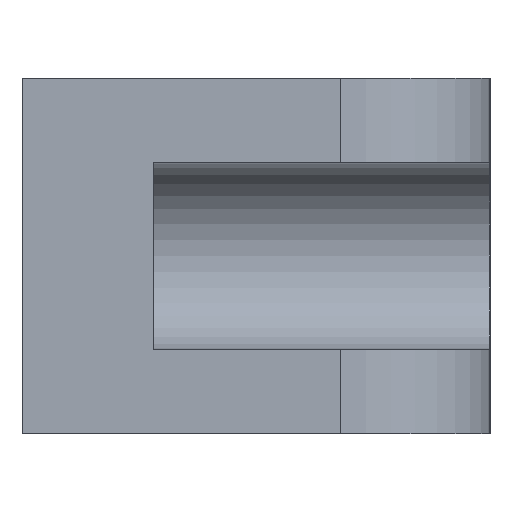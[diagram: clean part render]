
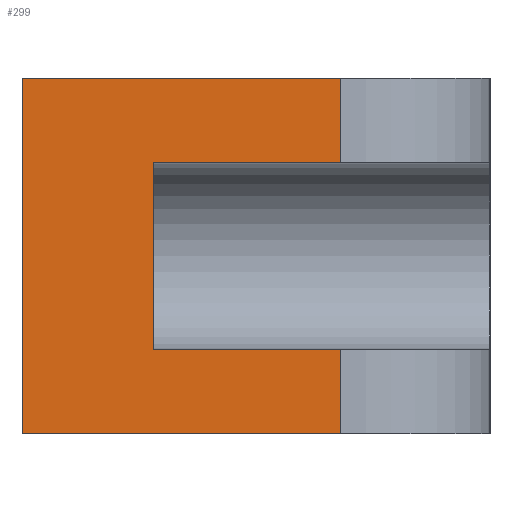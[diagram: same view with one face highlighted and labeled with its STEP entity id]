
A CAD part, left-side view. The second image highlights one B-rep face of the part: STEP entity #299.
In plain terms, the highlighted planar face has unit normal (-1, 0, 0).
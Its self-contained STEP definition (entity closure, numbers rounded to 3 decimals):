
#1 = CARTESIAN_POINT ( 'NONE',  ( 0., 18., 5. ) ) ;
#3 = EDGE_LOOP ( 'NONE', ( #680, #670, #661, #650, #617, #615, #603, #596 ) ) ;
#16 = VECTOR ( 'NONE', #699, 1000. ) ;
#18 = DIRECTION ( 'NONE',  ( 0., 0., -1. ) ) ;
#19 = EDGE_CURVE ( 'NONE', #348, #407, #98, .T. ) ;
#27 = VECTOR ( 'NONE', #68, 1000. ) ;
#29 = LINE ( 'NONE', #698, #16 ) ;
#53 = CARTESIAN_POINT ( 'NONE',  ( 0., 18., 5. ) ) ;
#68 = DIRECTION ( 'NONE',  ( 0., -1., 0. ) ) ;
#79 = VECTOR ( 'NONE', #357, 1000. ) ;
#82 = EDGE_CURVE ( 'NONE', #298, #643, #502, .T. ) ;
#84 = DIRECTION ( 'NONE',  ( 0., -1., 0. ) ) ;
#88 = CARTESIAN_POINT ( 'NONE',  ( 0., 0., -9.5 ) ) ;
#98 = LINE ( 'NONE', #486, #690 ) ;
#99 = CARTESIAN_POINT ( 'NONE',  ( 0., 18., -5. ) ) ;
#149 = VERTEX_POINT ( 'NONE', #187 ) ;
#187 = CARTESIAN_POINT ( 'NONE',  ( 0., 18., -5. ) ) ;
#193 = CARTESIAN_POINT ( 'NONE',  ( 0., 25., -9.5 ) ) ;
#216 = LINE ( 'NONE', #575, #475 ) ;
#238 = EDGE_CURVE ( 'NONE', #298, #384, #29, .T. ) ;
#287 = EDGE_CURVE ( 'NONE', #571, #410, #353, .T. ) ;
#298 = VERTEX_POINT ( 'NONE', #653 ) ;
#299 = ADVANCED_FACE ( 'NONE', ( #373 ), #641, .F. ) ;
#306 = CARTESIAN_POINT ( 'NONE',  ( 0., 25., 9.5 ) ) ;
#324 = VECTOR ( 'NONE', #84, 1000. ) ;
#330 = EDGE_CURVE ( 'NONE', #410, #384, #216, .T. ) ;
#348 = VERTEX_POINT ( 'NONE', #548 ) ;
#353 = LINE ( 'NONE', #648, #612 ) ;
#357 = DIRECTION ( 'NONE',  ( 0., 0., -1. ) ) ;
#373 = FACE_OUTER_BOUND ( 'NONE', #3, .T. ) ;
#384 = VERTEX_POINT ( 'NONE', #492 ) ;
#407 = VERTEX_POINT ( 'NONE', #436 ) ;
#410 = VERTEX_POINT ( 'NONE', #433 ) ;
#433 = CARTESIAN_POINT ( 'NONE',  ( 0., 8., 5. ) ) ;
#436 = CARTESIAN_POINT ( 'NONE',  ( 0., 8., -5. ) ) ;
#475 = VECTOR ( 'NONE', #584, 1000. ) ;
#486 = CARTESIAN_POINT ( 'NONE',  ( 0., 8., 9.5 ) ) ;
#492 = CARTESIAN_POINT ( 'NONE',  ( 0., 8., 9.5 ) ) ;
#502 = LINE ( 'NONE', #306, #79 ) ;
#514 = EDGE_CURVE ( 'NONE', #149, #407, #637, .T. ) ;
#536 = EDGE_CURVE ( 'NONE', #643, #348, #611, .T. ) ;
#537 = LINE ( 'NONE', #1, #687 ) ;
#548 = CARTESIAN_POINT ( 'NONE',  ( 0., 8., -9.5 ) ) ;
#571 = VERTEX_POINT ( 'NONE', #53 ) ;
#575 = CARTESIAN_POINT ( 'NONE',  ( 0., 8., 9.5 ) ) ;
#583 = EDGE_CURVE ( 'NONE', #571, #149, #537, .T. ) ;
#584 = DIRECTION ( 'NONE',  ( 0., 0., 1. ) ) ;
#596 = ORIENTED_EDGE ( 'NONE', *, *, #514, .F. ) ;
#603 = ORIENTED_EDGE ( 'NONE', *, *, #19, .T. ) ;
#611 = LINE ( 'NONE', #88, #27 ) ;
#612 = VECTOR ( 'NONE', #644, 1000. ) ;
#615 = ORIENTED_EDGE ( 'NONE', *, *, #536, .T. ) ;
#617 = ORIENTED_EDGE ( 'NONE', *, *, #82, .T. ) ;
#628 = DIRECTION ( 'NONE',  ( 0., 0., -1. ) ) ;
#633 = DIRECTION ( 'NONE',  ( 1., 0., 0. ) ) ;
#637 = LINE ( 'NONE', #99, #324 ) ;
#638 = CARTESIAN_POINT ( 'NONE',  ( 0., 0., 9.5 ) ) ;
#641 = PLANE ( 'NONE',  #673 ) ;
#643 = VERTEX_POINT ( 'NONE', #193 ) ;
#644 = DIRECTION ( 'NONE',  ( 0., -1., 0. ) ) ;
#648 = CARTESIAN_POINT ( 'NONE',  ( 0., 18., 5. ) ) ;
#650 = ORIENTED_EDGE ( 'NONE', *, *, #238, .F. ) ;
#653 = CARTESIAN_POINT ( 'NONE',  ( 0., 25., 9.5 ) ) ;
#661 = ORIENTED_EDGE ( 'NONE', *, *, #330, .T. ) ;
#670 = ORIENTED_EDGE ( 'NONE', *, *, #287, .T. ) ;
#673 = AXIS2_PLACEMENT_3D ( 'NONE', #638, #633, #628 ) ;
#676 = DIRECTION ( 'NONE',  ( 0., 0., 1. ) ) ;
#680 = ORIENTED_EDGE ( 'NONE', *, *, #583, .F. ) ;
#687 = VECTOR ( 'NONE', #18, 1000. ) ;
#690 = VECTOR ( 'NONE', #676, 1000. ) ;
#698 = CARTESIAN_POINT ( 'NONE',  ( 0., 0., 9.5 ) ) ;
#699 = DIRECTION ( 'NONE',  ( 0., -1., 0. ) ) ;
